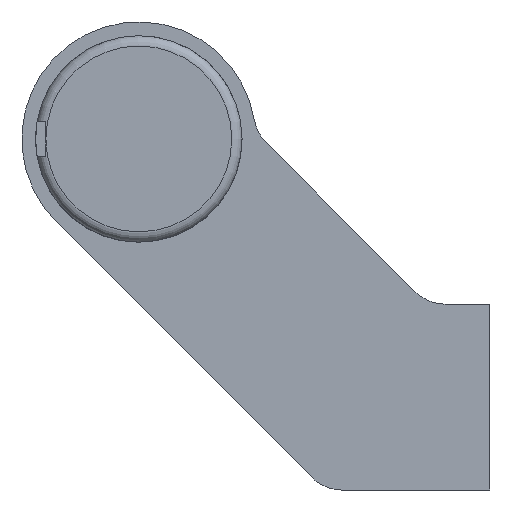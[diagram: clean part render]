
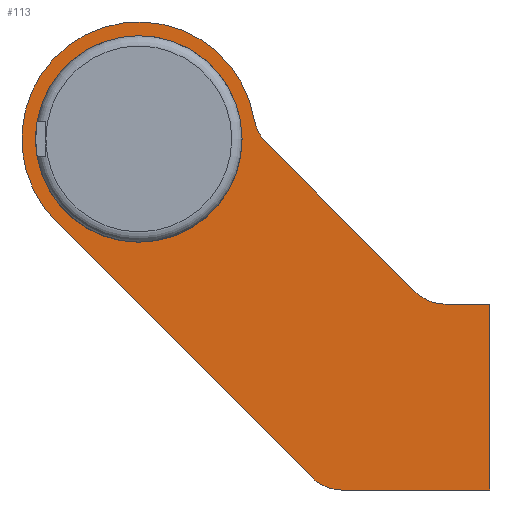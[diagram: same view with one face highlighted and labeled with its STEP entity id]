
A CAD part, left-side view. The second image highlights one B-rep face of the part: STEP entity #113.
In plain terms, the highlighted planar face has unit normal (-1, 0, 0).
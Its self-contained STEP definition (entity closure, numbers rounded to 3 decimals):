
#113 = ADVANCED_FACE( '', ( #212, #213 ), #214, .F. );
#212 = FACE_BOUND( '', #325, .T. );
#213 = FACE_OUTER_BOUND( '', #326, .T. );
#214 = PLANE( '', #327 );
#325 = EDGE_LOOP( '', ( #621 ) );
#326 = EDGE_LOOP( '', ( #622, #623, #624, #625, #626, #627, #628, #629, #630 ) );
#327 = AXIS2_PLACEMENT_3D( '', #631, #632, #633 );
#621 = ORIENTED_EDGE( '', *, *, #734, .T. );
#622 = ORIENTED_EDGE( '', *, *, #761, .F. );
#623 = ORIENTED_EDGE( '', *, *, #735, .F. );
#624 = ORIENTED_EDGE( '', *, *, #739, .F. );
#625 = ORIENTED_EDGE( '', *, *, #743, .F. );
#626 = ORIENTED_EDGE( '', *, *, #746, .F. );
#627 = ORIENTED_EDGE( '', *, *, #749, .T. );
#628 = ORIENTED_EDGE( '', *, *, #752, .F. );
#629 = ORIENTED_EDGE( '', *, *, #755, .T. );
#630 = ORIENTED_EDGE( '', *, *, #758, .F. );
#631 = CARTESIAN_POINT( '', ( -308.5, 51., 37.5 ) );
#632 = DIRECTION( '', ( 1., 0., 0. ) );
#633 = DIRECTION( '', ( 0., 0., -1. ) );
#734 = EDGE_CURVE( '', #866, #866, #867, .T. );
#735 = EDGE_CURVE( '', #868, #869, #870, .T. );
#739 = EDGE_CURVE( '', #876, #868, #877, .T. );
#743 = EDGE_CURVE( '', #883, #876, #884, .T. );
#746 = EDGE_CURVE( '', #888, #883, #889, .T. );
#749 = EDGE_CURVE( '', #888, #893, #894, .T. );
#752 = EDGE_CURVE( '', #898, #893, #899, .T. );
#755 = EDGE_CURVE( '', #898, #903, #904, .T. );
#758 = EDGE_CURVE( '', #908, #903, #909, .T. );
#761 = EDGE_CURVE( '', #869, #908, #913, .T. );
#866 = VERTEX_POINT( '', #1114 );
#867 = CIRCLE( '', #1115, 15. );
#868 = VERTEX_POINT( '', #1116 );
#869 = VERTEX_POINT( '', #1117 );
#870 = CIRCLE( '', #1118, 6. );
#876 = VERTEX_POINT( '', #1126 );
#877 = LINE( '', #1127, #1128 );
#883 = VERTEX_POINT( '', #1136 );
#884 = LINE( '', #1137, #1138 );
#888 = VERTEX_POINT( '', #1144 );
#889 = LINE( '', #1145, #1146 );
#893 = VERTEX_POINT( '', #1152 );
#894 = CIRCLE( '', #1153, 6. );
#898 = VERTEX_POINT( '', #1158 );
#899 = LINE( '', #1159, #1160 );
#903 = VERTEX_POINT( '', #1166 );
#904 = CIRCLE( '', #1167, 6. );
#908 = VERTEX_POINT( '', #1172 );
#909 = CIRCLE( '', #1173, 17. );
#913 = LINE( '', #1178, #1179 );
#1114 = CARTESIAN_POINT( '', ( -308.5, 51., 22.5 ) );
#1115 = AXIS2_PLACEMENT_3D( '', #1285, #1286, #1287 );
#1116 = CARTESIAN_POINT( '', ( -308.5, 21.556, -13.5 ) );
#1117 = CARTESIAN_POINT( '', ( -308.5, 25.799, -11.743 ) );
#1118 = AXIS2_PLACEMENT_3D( '', #1288, #1289, #1290 );
#1126 = CARTESIAN_POINT( '', ( -308.5, 0., -13.5 ) );
#1127 = CARTESIAN_POINT( '', ( -308.5, 0., -13.5 ) );
#1128 = VECTOR( '', #1296, 1000. );
#1136 = CARTESIAN_POINT( '', ( -308.5, 0., 13.5 ) );
#1137 = CARTESIAN_POINT( '', ( -308.5, 0., 13.5 ) );
#1138 = VECTOR( '', #1302, 1000. );
#1144 = CARTESIAN_POINT( '', ( -308.5, 6.515, 13.5 ) );
#1145 = CARTESIAN_POINT( '', ( -308.5, 6.515, 13.5 ) );
#1146 = VECTOR( '', #1305, 1000. );
#1152 = CARTESIAN_POINT( '', ( -308.5, 10.757, 15.257 ) );
#1153 = AXIS2_PLACEMENT_3D( '', #1308, #1309, #1310 );
#1158 = CARTESIAN_POINT( '', ( -308.5, 32.559, 37.059 ) );
#1159 = CARTESIAN_POINT( '', ( -308.5, 32.559, 37.059 ) );
#1160 = VECTOR( '', #1315, 1000. );
#1166 = CARTESIAN_POINT( '', ( -308.5, 34.234, 40.31 ) );
#1167 = AXIS2_PLACEMENT_3D( '', #1318, #1319, #1320 );
#1172 = CARTESIAN_POINT( '', ( -308.5, 63.021, 25.479 ) );
#1173 = AXIS2_PLACEMENT_3D( '', #1325, #1326, #1327 );
#1178 = CARTESIAN_POINT( '', ( -308.5, 25.799, -11.743 ) );
#1179 = VECTOR( '', #1332, 1000. );
#1285 = CARTESIAN_POINT( '', ( -308.5, 51., 37.5 ) );
#1286 = DIRECTION( '', ( 1., 0., 0. ) );
#1287 = DIRECTION( '', ( 0., 0., -1. ) );
#1288 = CARTESIAN_POINT( '', ( -308.5, 21.556, -7.5 ) );
#1289 = DIRECTION( '', ( 1., 0., 0. ) );
#1290 = DIRECTION( '', ( 0., 0., -1. ) );
#1296 = DIRECTION( '', ( 0., 1., 0. ) );
#1302 = DIRECTION( '', ( 0., 0., -1. ) );
#1305 = DIRECTION( '', ( 0., -1., 0. ) );
#1308 = CARTESIAN_POINT( '', ( -308.5, 6.515, 19.5 ) );
#1309 = DIRECTION( '', ( 1., 0., 0. ) );
#1310 = DIRECTION( '', ( 0., 0., -1. ) );
#1315 = DIRECTION( '', ( 0., -0.707, -0.707 ) );
#1318 = CARTESIAN_POINT( '', ( -308.5, 28.316, 41.302 ) );
#1319 = DIRECTION( '', ( 1., 0., 0. ) );
#1320 = DIRECTION( '', ( 0., 0., -1. ) );
#1325 = CARTESIAN_POINT( '', ( -308.5, 51., 37.5 ) );
#1326 = DIRECTION( '', ( 1., 0., 0. ) );
#1327 = DIRECTION( '', ( 0., 0., -1. ) );
#1332 = DIRECTION( '', ( 0., 0.707, 0.707 ) );
